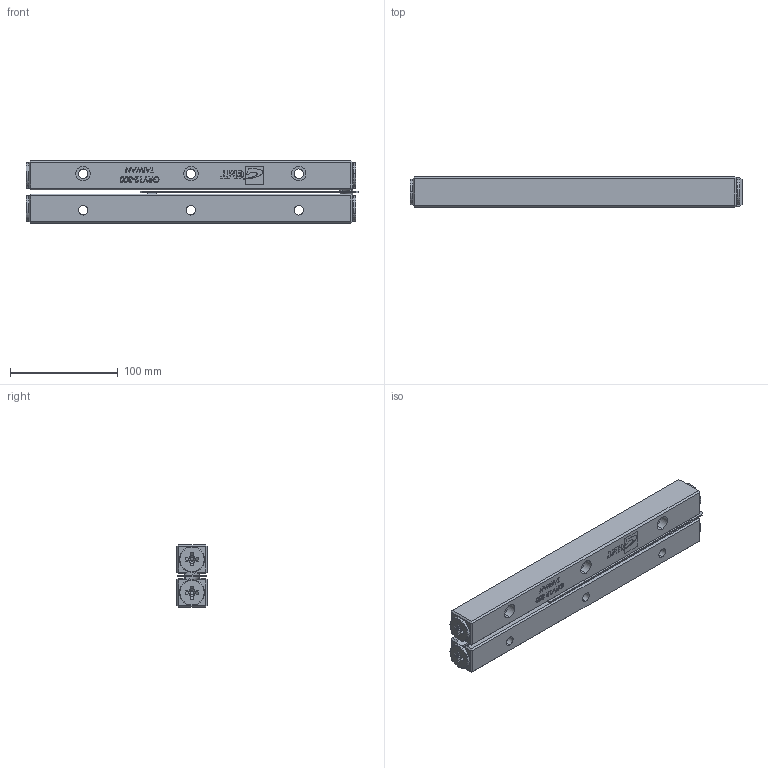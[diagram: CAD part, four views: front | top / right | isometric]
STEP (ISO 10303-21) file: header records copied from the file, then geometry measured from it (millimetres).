
FILE_DESCRIPTION (( 'STEP AP203' ), '1' );
FILE_NAME ('GRV12-300.STEP', '2012-10-17T05:16:15', ( '123' ), ( '' ), 'SwSTEP 2.0', 'SolidWorks 2012', '' );
FILE_SCHEMA (( 'CONFIG_CONTROL_DESIGN' ));
Length unit declared in the file: millimetre
Products named in the file (1): GRV12-300
Bounding box: 308 x 28 x 58 mm (x, y, z)
Surface area: 86305.6 mm2 (no closed solid volume)
Topology: 0 solids, 32 shells, 300 faces, 1613 edges, 1339 vertices
Faces by surface type: plane 224, cylinder 40, torus 20, cone 10, bspline 6
Entity records: 19421 total; most frequent: CARTESIAN_POINT 7289, DIRECTION 2267, ORIENTED_EDGE 2174, EDGE_CURVE 1611, VERTEX_POINT 1339, LINE 1033, VECTOR 1033, AXIS2_PLACEMENT_3D 617
